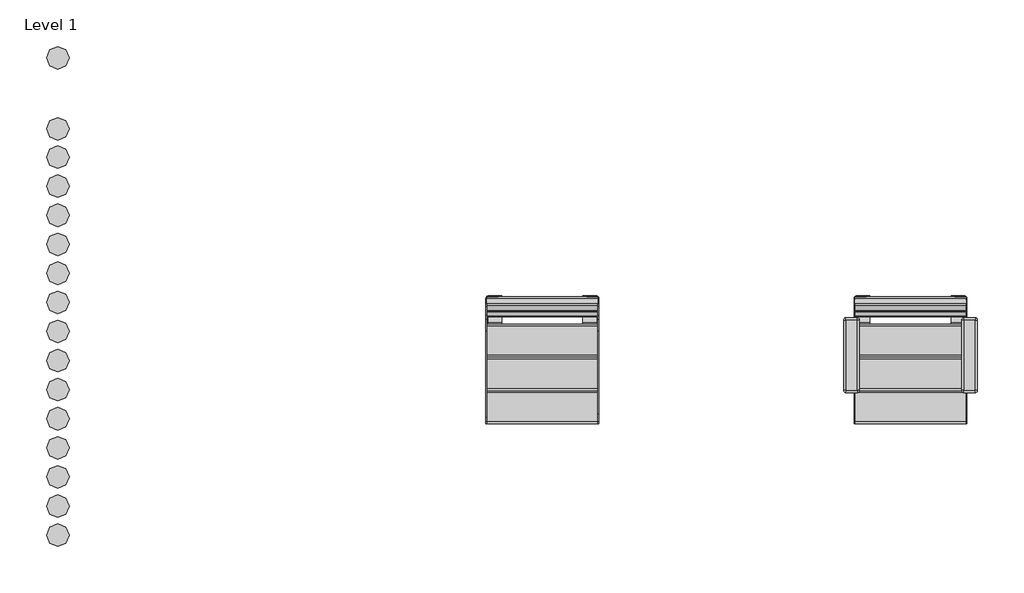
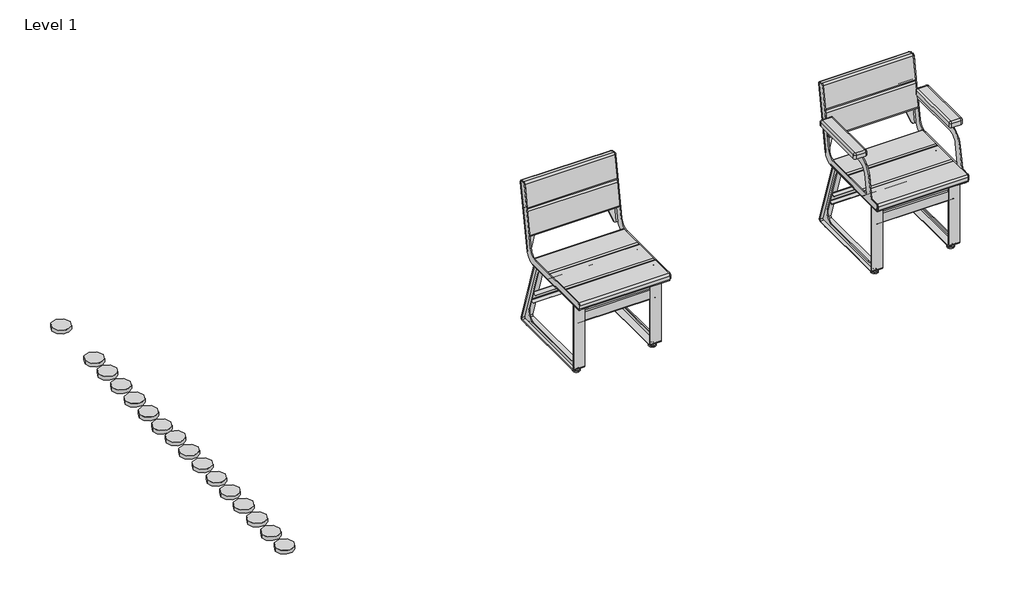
# One storey: 16 proxies, 2 furniture elements.
"""IFC4 building model written with IfcOpenShell, lengths in millimetres."""

from ifc_helpers import new_model, si_unit, origin, place, context, project, spatial, transform, mapped, element, save
from components import materialmodel_materialmodel_58669afb, furniture_13b11725, furniture_f364a5a9, furniture_7d017813, furniture_ebc10c41

model = new_model("IFC4")

# Units and contexts
model_context = context("Model", 3, world=origin())
ifc_project = project(units=[si_unit("LENGTHUNIT", "METRE", prefix="MILLI")], contexts=[model_context])

# Site, building, storey
site = spatial("IfcSite", under=ifc_project)
building = spatial("IfcBuilding", under=site)
storey = spatial("IfcBuildingStorey", under=building, Name="Level 1", Elevation=0.0)

# Proxies
placement = place(None, origin())
materialmodel_materialmodel_shape = materialmodel_materialmodel_58669afb(model_context)
element("IfcBuildingElementProxy", 1, Name="MaterialModel : MaterialModel", ObjectType="MaterialModel : MaterialModel", at=placement, inside=storey, context=model_context, shape_type="MappedRepresentation", body=[
    mapped(materialmodel_materialmodel_shape, transform((-10268.5516042, 2363.9940206, 0.0), x_axis=(1.0, 0.0, 0.0), y_axis=(0.0, 1.0, 0.0), z_axis=(0.0, 0.0, 1.0))),
])
element("IfcBuildingElementProxy", 2, Name="MaterialModel : MaterialModel", ObjectType="MaterialModel : MaterialModel", at=placement, inside=storey, context=model_context, shape_type="MappedRepresentation", body=[
    mapped(materialmodel_materialmodel_shape, transform((-10268.5516042, 2239.1712203, 0.0), x_axis=(1.0, 0.0, 0.0), y_axis=(0.0, 1.0, 0.0), z_axis=(0.0, 0.0, 1.0))),
])
element("IfcBuildingElementProxy", 3, Name="MaterialModel : MaterialModel", ObjectType="MaterialModel : MaterialModel", at=placement, inside=storey, context=model_context, shape_type="MappedRepresentation", body=[
    mapped(materialmodel_materialmodel_shape, transform((-10268.5516042, 2110.436676, 0.0), x_axis=(1.0, 0.0, 0.0), y_axis=(0.0, 1.0, 0.0), z_axis=(0.0, 0.0, 1.0))),
])
element("IfcBuildingElementProxy", 4, Name="MaterialModel : MaterialModel", ObjectType="MaterialModel : MaterialModel", at=placement, inside=storey, context=model_context, shape_type="MappedRepresentation", body=[
    mapped(materialmodel_materialmodel_shape, transform((-10268.5516042, 1981.7021316, 0.0), x_axis=(1.0, 0.0, 0.0), y_axis=(0.0, 1.0, 0.0), z_axis=(0.0, 0.0, 1.0))),
])
element("IfcBuildingElementProxy", 5, Name="MaterialModel : MaterialModel", ObjectType="MaterialModel : MaterialModel", at=placement, inside=storey, context=model_context, shape_type="MappedRepresentation", body=[
    mapped(materialmodel_materialmodel_shape, transform((-10268.5516042, 1852.9675873, 0.0), x_axis=(1.0, 0.0, 0.0), y_axis=(0.0, 1.0, 0.0), z_axis=(0.0, 0.0, 1.0))),
])
element("IfcBuildingElementProxy", 6, Name="MaterialModel : MaterialModel", ObjectType="MaterialModel : MaterialModel", at=placement, inside=storey, context=model_context, shape_type="MappedRepresentation", body=[
    mapped(materialmodel_materialmodel_shape, transform((-10268.5516042, 1725.2876659, 0.0), x_axis=(1.0, 0.0, 0.0), y_axis=(0.0, 1.0, 0.0), z_axis=(0.0, 0.0, 1.0))),
])
element("IfcBuildingElementProxy", 7, Name="MaterialModel : MaterialModel", ObjectType="MaterialModel : MaterialModel", at=placement, inside=storey, context=model_context, shape_type="MappedRepresentation", body=[
    mapped(materialmodel_materialmodel_shape, transform((-10268.5516042, 1596.5531216, 10.0), x_axis=(1.0, 0.0, 0.0), y_axis=(0.0, 1.0, 0.0), z_axis=(0.0, 0.0, 1.0))),
])
element("IfcBuildingElementProxy", 8, Name="MaterialModel : MaterialModel", ObjectType="MaterialModel : MaterialModel", at=placement, inside=storey, context=model_context, shape_type="MappedRepresentation", body=[
    mapped(materialmodel_materialmodel_shape, transform((-10268.5516042, 1467.8185772, 10.0), x_axis=(1.0, 0.0, 0.0), y_axis=(0.0, 1.0, 0.0), z_axis=(0.0, 0.0, 1.0))),
])
element("IfcBuildingElementProxy", 9, Name="MaterialModel : MaterialModel", ObjectType="MaterialModel : MaterialModel", at=placement, inside=storey, context=model_context, shape_type="MappedRepresentation", body=[
    mapped(materialmodel_materialmodel_shape, transform((-10268.5516042, 1339.0840329, 10.0), x_axis=(1.0, 0.0, 0.0), y_axis=(0.0, 1.0, 0.0), z_axis=(0.0, 0.0, 1.0))),
])
element("IfcBuildingElementProxy", 10, Name="MaterialModel : MaterialModel", ObjectType="MaterialModel : MaterialModel", at=placement, inside=storey, context=model_context, shape_type="MappedRepresentation", body=[
    mapped(materialmodel_materialmodel_shape, transform((-10268.5516042, 1210.3494885, 10.0), x_axis=(1.0, 0.0, 0.0), y_axis=(0.0, 1.0, 0.0), z_axis=(0.0, 0.0, 1.0))),
])
element("IfcBuildingElementProxy", 11, Name="MaterialModel : MaterialModel", ObjectType="MaterialModel : MaterialModel", at=placement, inside=storey, context=model_context, shape_type="MappedRepresentation", body=[
    mapped(materialmodel_materialmodel_shape, transform((-10268.5516042, 1081.6149442, 10.0), x_axis=(1.0, 0.0, 0.0), y_axis=(0.0, 1.0, 0.0), z_axis=(0.0, 0.0, 1.0))),
])
element("IfcBuildingElementProxy", 12, Name="MaterialModel : MaterialModel", ObjectType="MaterialModel : MaterialModel", at=placement, inside=storey, context=model_context, shape_type="MappedRepresentation", body=[
    mapped(materialmodel_materialmodel_shape, transform((-10268.5516042, 952.8803998, 10.0), x_axis=(1.0, 0.0, 0.0), y_axis=(0.0, 1.0, 0.0), z_axis=(0.0, 0.0, 1.0))),
])
element("IfcBuildingElementProxy", 13, Name="MaterialModel : MaterialModel", ObjectType="MaterialModel : MaterialModel", at=placement, inside=storey, context=model_context, shape_type="MappedRepresentation", body=[
    mapped(materialmodel_materialmodel_shape, transform((-10268.5516042, 824.1458555, 10.0), x_axis=(1.0, 0.0, 0.0), y_axis=(0.0, 1.0, 0.0), z_axis=(0.0, 0.0, 1.0))),
])
element("IfcBuildingElementProxy", 14, Name="MaterialModel : MaterialModel", ObjectType="MaterialModel : MaterialModel", at=placement, inside=storey, context=model_context, shape_type="MappedRepresentation", body=[
    mapped(materialmodel_materialmodel_shape, transform((-10268.5516042, 695.4113111, 10.0), x_axis=(1.0, 0.0, 0.0), y_axis=(0.0, 1.0, 0.0), z_axis=(0.0, 0.0, 1.0))),
])
element("IfcBuildingElementProxy", 15, Name="MaterialModel : MaterialModel", ObjectType="MaterialModel : MaterialModel", at=placement, inside=storey, context=model_context, shape_type="MappedRepresentation", body=[
    mapped(materialmodel_materialmodel_shape, transform((-10268.5516042, 566.6767668, 10.0), x_axis=(1.0, 0.0, 0.0), y_axis=(0.0, 1.0, 0.0), z_axis=(0.0, 0.0, 1.0))),
])
element("IfcBuildingElementProxy", 16, Name="MaterialModel : MaterialModel", ObjectType="MaterialModel : MaterialModel", at=placement, inside=storey, context=model_context, shape_type="MappedRepresentation", body=[
    mapped(materialmodel_materialmodel_shape, transform((-10268.5516042, 2678.0371084, 0.0), x_axis=(1.0, 0.0, 0.0), y_axis=(0.0, 1.0, 0.0), z_axis=(0.0, 0.0, 1.0))),
])

# Furniture
furniture_shape = furniture_13b11725(model_context)
furniture_2_shape = furniture_f364a5a9(model_context)
element("IfcFurniture", 17, ObjectType="Roros Produkter - Trend - Chair - 32975 : Roros Produkter - Trend - Chair - 32975", at=placement, inside=storey, context=model_context, shape_type="MappedRepresentation", body=[
    mapped(furniture_shape, transform((-8124.7028076, 1378.2804069, 0.0), x_axis=(1.0, 0.0, 0.0), y_axis=(0.0, 1.0, 0.0), z_axis=(0.0, 0.0, 1.0))),
    mapped(furniture_2_shape, transform((-8124.7028076, 1378.2804069, 0.0), x_axis=(1.0, 0.0, 0.0), y_axis=(0.0, 1.0, 0.0), z_axis=(0.0, 0.0, 1.0))),
])
furniture_3_shape = furniture_7d017813(model_context)
furniture_4_shape = furniture_ebc10c41(model_context)
element("IfcFurniture", 18, ObjectType="Roros Produkter - Trend - Chair - Armrests - 32974 : Roros Produkter - Trend - Chair - Armrests - 32974", at=placement, inside=storey, context=model_context, shape_type="MappedRepresentation", body=[
    mapped(furniture_3_shape, transform((-6496.5506173, 1378.2804069, 0.0), x_axis=(1.0, 0.0, 0.0), y_axis=(0.0, 1.0, 0.0), z_axis=(0.0, 0.0, 1.0))),
    mapped(furniture_4_shape, transform((-6496.5506173, 1378.2804069, 0.0), x_axis=(1.0, 0.0, 0.0), y_axis=(0.0, 1.0, 0.0), z_axis=(0.0, 0.0, 1.0))),
])

save(model, "model.ifc")
